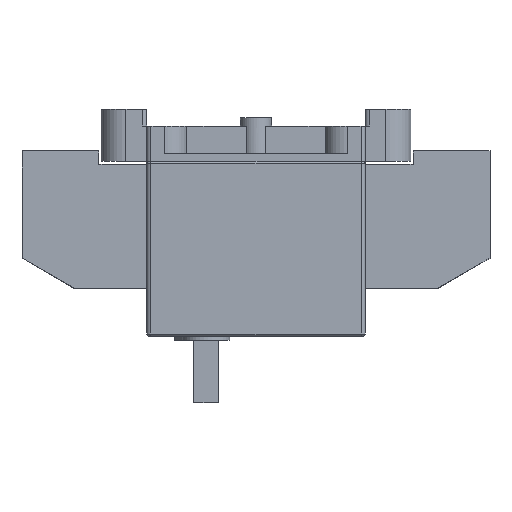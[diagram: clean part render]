
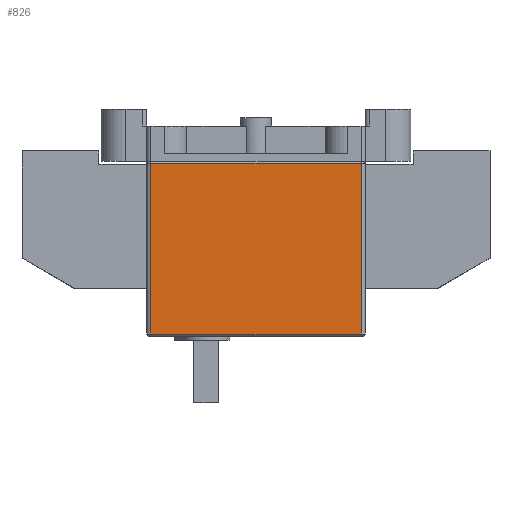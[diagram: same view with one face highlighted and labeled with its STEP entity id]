
A CAD part, left-side view. The second image highlights one B-rep face of the part: STEP entity #826.
In plain terms, the highlighted planar face has unit normal (-1, 0, 0).
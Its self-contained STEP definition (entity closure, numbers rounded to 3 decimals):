
#330=FACE_OUTER_BOUND('',#3534,.T.);
#826=ADVANCED_FACE('',(#330),#1173,.F.);
#1173=PLANE('',#8456);
#1969=LINE('',#12602,#2861);
#1976=LINE('',#12682,#2868);
#1983=LINE('',#12698,#2875);
#1984=LINE('',#12700,#2876);
#2861=VECTOR('',#10259,1.);
#2868=VECTOR('',#10312,1.);
#2875=VECTOR('',#10335,1.);
#2876=VECTOR('',#10338,1.);
#3534=EDGE_LOOP('',(#5315,#5316,#5317,#5318));
#5315=ORIENTED_EDGE('',*,*,#7553,.T.);
#5316=ORIENTED_EDGE('',*,*,#7519,.T.);
#5317=ORIENTED_EDGE('',*,*,#7554,.F.);
#5318=ORIENTED_EDGE('',*,*,#7543,.T.);
#6489=VERTEX_POINT('',#12590);
#6493=VERTEX_POINT('',#12599);
#6508=VERTEX_POINT('',#12654);
#6512=VERTEX_POINT('',#12681);
#7519=EDGE_CURVE('',#6493,#6489,#1969,.T.);
#7543=EDGE_CURVE('',#6508,#6512,#1976,.T.);
#7553=EDGE_CURVE('',#6512,#6493,#1983,.T.);
#7554=EDGE_CURVE('',#6508,#6489,#1984,.T.);
#8456=AXIS2_PLACEMENT_3D('',#12701,#10339,#10340);
#10259=DIRECTION('',(0.,1.,0.));
#10312=DIRECTION('',(0.,-1.,0.));
#10335=DIRECTION('',(0.,0.,1.));
#10338=DIRECTION('',(0.,0.,1.));
#10339=DIRECTION('',(1.,0.,0.));
#10340=DIRECTION('',(0.,1.,0.));
#12590=CARTESIAN_POINT('',(-197.5,50.5,-1.));
#12599=CARTESIAN_POINT('',(-197.5,-50.5,-1.));
#12602=CARTESIAN_POINT('',(-197.5,-50.5,-1.));
#12654=CARTESIAN_POINT('',(-197.5,50.5,-83.));
#12681=CARTESIAN_POINT('',(-197.5,-50.5,-83.));
#12682=CARTESIAN_POINT('',(-197.5,-50.5,-83.));
#12698=CARTESIAN_POINT('',(-197.5,-50.5,-84.));
#12700=CARTESIAN_POINT('',(-197.5,50.5,-84.));
#12701=CARTESIAN_POINT('',(-197.5,-50.5,-84.));
